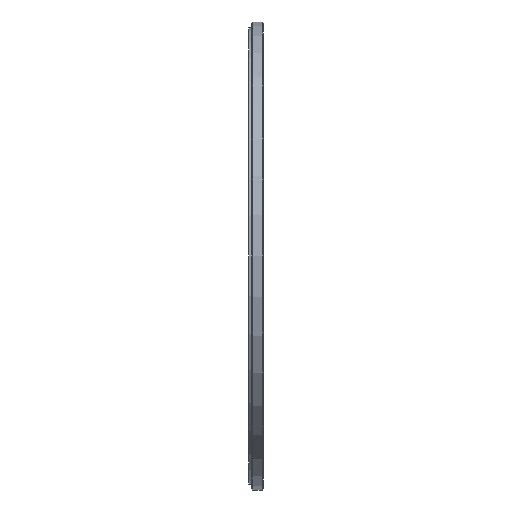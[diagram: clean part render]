
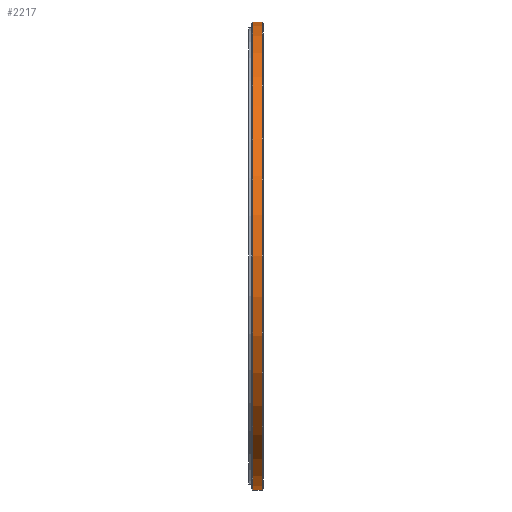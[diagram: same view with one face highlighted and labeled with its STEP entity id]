
A CAD part, left-side view. The second image highlights one B-rep face of the part: STEP entity #2217.
In plain terms, the highlighted cylindrical face has radius 40 mm (diameter 80 mm), a partial arc.
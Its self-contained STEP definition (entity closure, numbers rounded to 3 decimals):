
#239 = EDGE_CURVE ( 'NONE', #269, #3218, #3598, .T. ) ;
#269 = VERTEX_POINT ( 'NONE', #1275 ) ;
#352 = FACE_OUTER_BOUND ( 'NONE', #2231, .T. ) ;
#374 = DIRECTION ( 'NONE',  ( 0., 0., 1. ) ) ;
#404 = CIRCLE ( 'NONE', #3358, 40. ) ;
#666 = DIRECTION ( 'NONE',  ( 0., -1., 0. ) ) ;
#911 = CARTESIAN_POINT ( 'NONE',  ( 0., 1.8, 0. ) ) ;
#918 = VECTOR ( 'NONE', #2982, 1000. ) ;
#1247 = LINE ( 'NONE', #3503, #1512 ) ;
#1262 = AXIS2_PLACEMENT_3D ( 'NONE', #2973, #1569, #374 ) ;
#1275 = CARTESIAN_POINT ( 'NONE',  ( 0., 1.8, -40. ) ) ;
#1476 = AXIS2_PLACEMENT_3D ( 'NONE', #1532, #2374, #2988 ) ;
#1504 = DIRECTION ( 'NONE',  ( 0., 0., 1. ) ) ;
#1512 = VECTOR ( 'NONE', #666, 1000. ) ;
#1513 = CYLINDRICAL_SURFACE ( 'NONE', #1476, 40. ) ;
#1532 = CARTESIAN_POINT ( 'NONE',  ( 0., 2., 0. ) ) ;
#1569 = DIRECTION ( 'NONE',  ( 0., 1., 0. ) ) ;
#1750 = ORIENTED_EDGE ( 'NONE', *, *, #239, .T. ) ;
#1979 = EDGE_CURVE ( 'NONE', #3365, #3492, #1247, .T. ) ;
#2163 = ORIENTED_EDGE ( 'NONE', *, *, #1979, .F. ) ;
#2217 = ADVANCED_FACE ( 'NONE', ( #352 ), #1513, .T. ) ;
#2231 = EDGE_LOOP ( 'NONE', ( #2163, #3360, #1750, #3314 ) ) ;
#2374 = DIRECTION ( 'NONE',  ( 0., -1., 0. ) ) ;
#2403 = CIRCLE ( 'NONE', #1262, 40. ) ;
#2449 = EDGE_CURVE ( 'NONE', #3218, #3492, #2403, .T. ) ;
#2692 = CARTESIAN_POINT ( 'NONE',  ( 0., 0.2, -40. ) ) ;
#2737 = CARTESIAN_POINT ( 'NONE',  ( 0., 1.8, 40. ) ) ;
#2944 = DIRECTION ( 'NONE',  ( 0., -1., 0. ) ) ;
#2973 = CARTESIAN_POINT ( 'NONE',  ( 0., 0.2, 0. ) ) ;
#2982 = DIRECTION ( 'NONE',  ( 0., -1., 0. ) ) ;
#2988 = DIRECTION ( 'NONE',  ( 0., 0., -1. ) ) ;
#3218 = VERTEX_POINT ( 'NONE', #2692 ) ;
#3275 = CARTESIAN_POINT ( 'NONE',  ( 0., 0.2, 40. ) ) ;
#3314 = ORIENTED_EDGE ( 'NONE', *, *, #2449, .T. ) ;
#3358 = AXIS2_PLACEMENT_3D ( 'NONE', #911, #2944, #1504 ) ;
#3360 = ORIENTED_EDGE ( 'NONE', *, *, #3529, .T. ) ;
#3365 = VERTEX_POINT ( 'NONE', #2737 ) ;
#3492 = VERTEX_POINT ( 'NONE', #3275 ) ;
#3503 = CARTESIAN_POINT ( 'NONE',  ( 0., 2., 40. ) ) ;
#3529 = EDGE_CURVE ( 'NONE', #3365, #269, #404, .T. ) ;
#3531 = CARTESIAN_POINT ( 'NONE',  ( 0., 2., -40. ) ) ;
#3598 = LINE ( 'NONE', #3531, #918 ) ;
